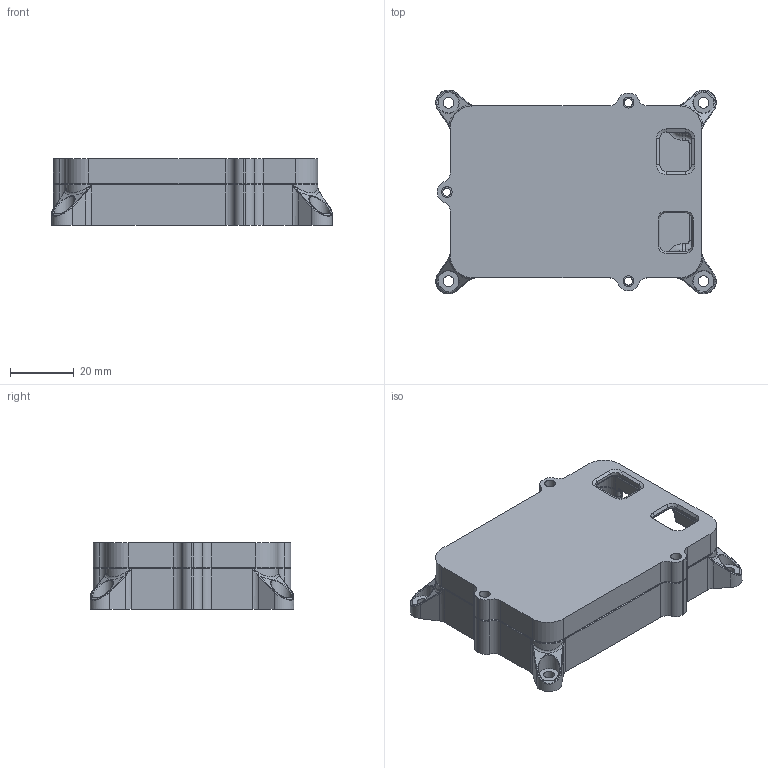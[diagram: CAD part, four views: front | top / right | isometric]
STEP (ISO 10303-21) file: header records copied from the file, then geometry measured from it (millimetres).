
FILE_DESCRIPTION(/* description */ (''),/* implementation_level */ '2;1');
FILE_NAME(/* name */ 'C:/Users/bodhe/OneDrive - Obvious Innovations LLC/Documents/Soberton Parts/Enclosure files/ec-005 A and B.step',/* time_stamp */ '2021-11-29T07:10:23-06:00',/* author */ (''),/* organization */ (''),/* preprocessor_version */ 'ST-DEVELOPER v18.1',/* originating_system */ 'Autodesk Translation Framework v10.10.0.1391',/* authorisation */ '');
FILE_SCHEMA (('AUTOMOTIVE_DESIGN { 1 0 10303 214 3 1 1 }'));
Length unit declared in the file: millimetre
Products named in the file (1): ec-005
Bounding box: 87.96 x 63.98 x 20.95 mm (x, y, z)
Volume: 26805.4 mm3; surface area: 27181.3 mm2
Topology: 2 solids, 2 shells, 551 faces, 1343 edges, 782 vertices
Faces by surface type: cylinder 225, bspline 110, plane 110, torus 90, cone 8, sphere 8
Full cylindrical faces by diameter (mm): 2.529 x7, 3.4 x7
Entity records: 19069 total; most frequent: CARTESIAN_POINT 6389, DIRECTION 2697, ORIENTED_EDGE 2654, EDGE_CURVE 1327, AXIS2_PLACEMENT_3D 1100, VERTEX_POINT 782, CIRCLE 602, EDGE_LOOP 585
